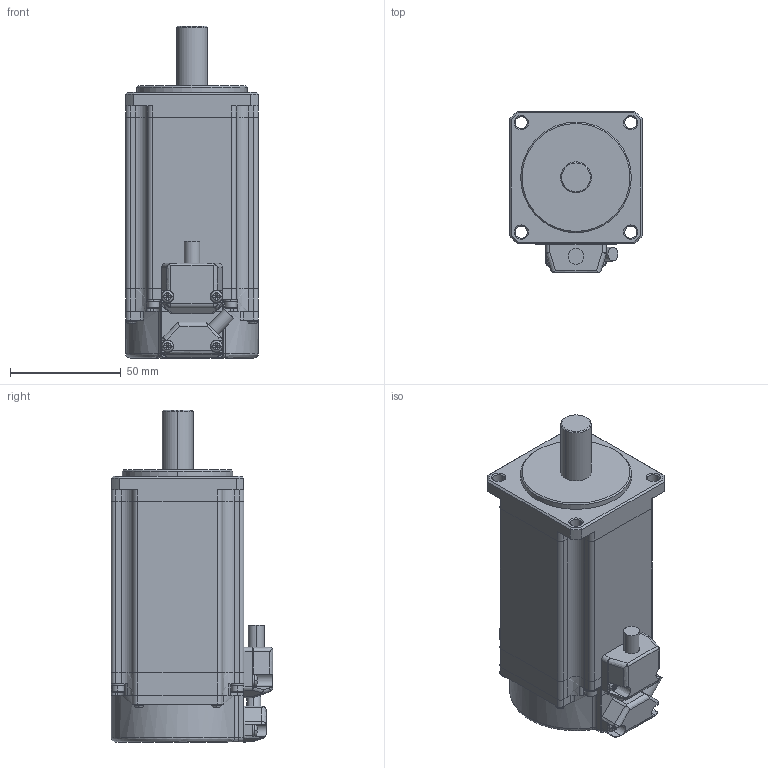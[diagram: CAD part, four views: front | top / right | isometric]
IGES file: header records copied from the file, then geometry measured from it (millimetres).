
Start section: Elysium IGES Interface
Global section: file name: 79H\\nas63\design\04MC研\saka\3DCAD\TBL-i2カタログまとめ\IGSデータ\TS4610_BK無.igs; native system: Creo Elements/Direct Modeling 17.0F  20-Aug-2012; preprocessor: Creo Element/Direct IGES_3D V2.2; author: Unknown; organization: Unknown; date: 20161222.162735; units: millimetre
Bounding box: 60 x 73 x 150.1 mm (x, y, z)
Volume: 401431.8 mm3; surface area: 38044.7 mm2
Topology: 1 solids, 1 shells, 684 faces, 1571 edges, 884 vertices
Faces by surface type: bspline 684
